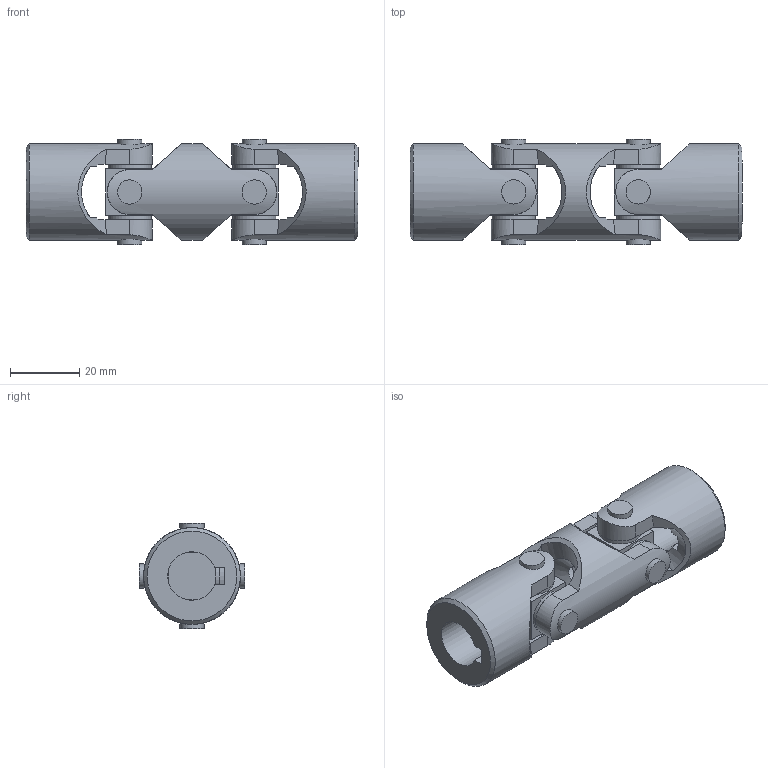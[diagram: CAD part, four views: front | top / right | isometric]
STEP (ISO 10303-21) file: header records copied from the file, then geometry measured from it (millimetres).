
FILE_DESCRIPTION(/* description */ (''),/* implementation_level */ '2;1');
FILE_NAME(/* name */ '\\SRV2016\Societa\Stefano\Disegni 3D\0Catalogo 3D\14Doppi XD\Ø28_05XD_SX0D142C.stp',/* time_stamp */ '2023-05-15T08:42:41+02:00',/* author */ ('acquisti'),/* organization */ (''),/* preprocessor_version */ 'ST-DEVELOPER v15.6',/* originating_system */ 'Autodesk Inventor 2015',/* authorisation */ '');
FILE_SCHEMA (('AUTOMOTIVE_DESIGN { 1 0 10303 214 3 1 1 }'));
Length unit declared in the file: millimetre
Products named in the file (4): 05X MOD; 05X SFE; 05X MOC; Ø28_05XD_SX0D1400
Assembly tree (5 placements, depth 2):
  Ø28_05XD_SX0D1400
    05X MOD
    05X SFE  x2
    05X MOC  x2
Bounding box: 96 x 30.5 x 30.5 mm (x, y, z)
Volume: 37947.6 mm3; surface area: 16557.6 mm2
Topology: 5 solids, 5 shells, 127 faces, 329 edges, 224 vertices
Faces by surface type: plane 68, cylinder 33, cone 22, torus 4
Full cylindrical faces by diameter (mm): 7 x8, 12.5 x8, 14.5 x2, 28 x3
Entity records: 3132 total; most frequent: CARTESIAN_POINT 1170, ORIENTED_EDGE 392, DIRECTION 365, EDGE_CURVE 196, AXIS2_PLACEMENT_3D 154, VERTEX_POINT 144, EDGE_LOOP 116, FACE_OUTER_BOUND 85
